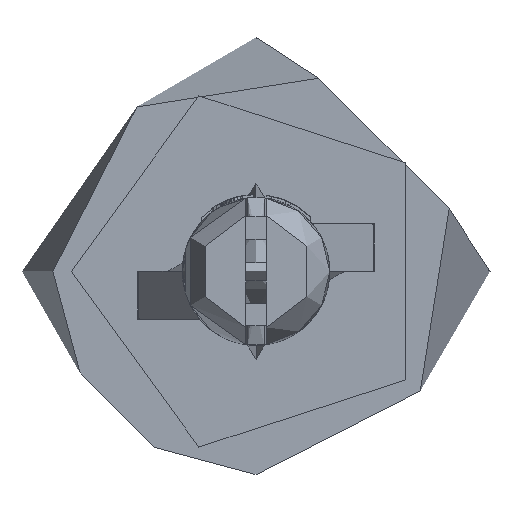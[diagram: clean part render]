
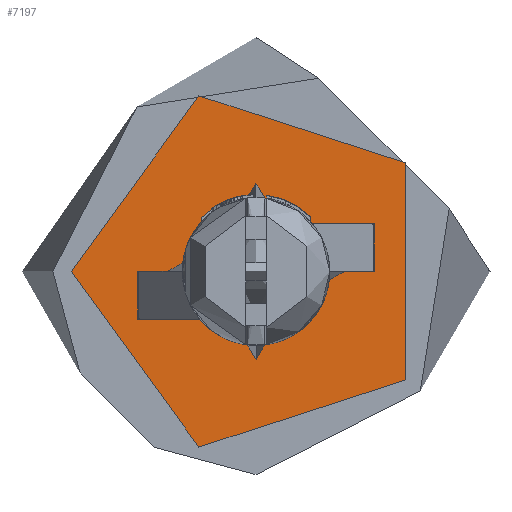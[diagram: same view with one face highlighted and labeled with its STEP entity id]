
A CAD part, front view. The second image highlights one B-rep face of the part: STEP entity #7197.
In plain terms, the highlighted planar face has unit normal (0, -1, 0) as drawn and (-1, 0, 0) by its records, which use the part's own axes.
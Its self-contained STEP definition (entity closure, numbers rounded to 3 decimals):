
#2093=FACE_BOUND('',#2802,.T.);
#2151=PLANE('',#7629);
#2380=FACE_OUTER_BOUND('',#2801,.T.);
#2801=EDGE_LOOP('',(#5176));
#2802=EDGE_LOOP('',(#5177));
#3220=CIRCLE('',#7624,5.25);
#3222=CIRCLE('',#7627,15.);
#3355=VERTEX_POINT('',#11519);
#3357=VERTEX_POINT('',#11524);
#4061=EDGE_CURVE('',#3355,#3355,#3220,.T.);
#4063=EDGE_CURVE('',#3357,#3357,#3222,.T.);
#5176=ORIENTED_EDGE('',*,*,#4063,.T.);
#5177=ORIENTED_EDGE('',*,*,#4061,.T.);
#7197=ADVANCED_FACE('',(#2380,#2093),#2151,.T.);
#7624=AXIS2_PLACEMENT_3D('',#11520,#8260,#8261);
#7627=AXIS2_PLACEMENT_3D('',#11525,#8266,#8267);
#7629=AXIS2_PLACEMENT_3D('',#11527,#8270,#8271);
#8260=DIRECTION('center_axis',(1.,0.,0.));
#8261=DIRECTION('ref_axis',(0.,-1.,0.));
#8266=DIRECTION('center_axis',(-1.,0.,0.));
#8267=DIRECTION('ref_axis',(0.,-1.,0.));
#8270=DIRECTION('center_axis',(-1.,0.,0.));
#8271=DIRECTION('ref_axis',(0.,0.,1.));
#11519=CARTESIAN_POINT('',(0.,5.25,0.));
#11520=CARTESIAN_POINT('Origin',(0.,0.,0.));
#11524=CARTESIAN_POINT('',(0.,15.,0.));
#11525=CARTESIAN_POINT('Origin',(0.,0.,0.));
#11527=CARTESIAN_POINT('Origin',(0.,0.,0.));
